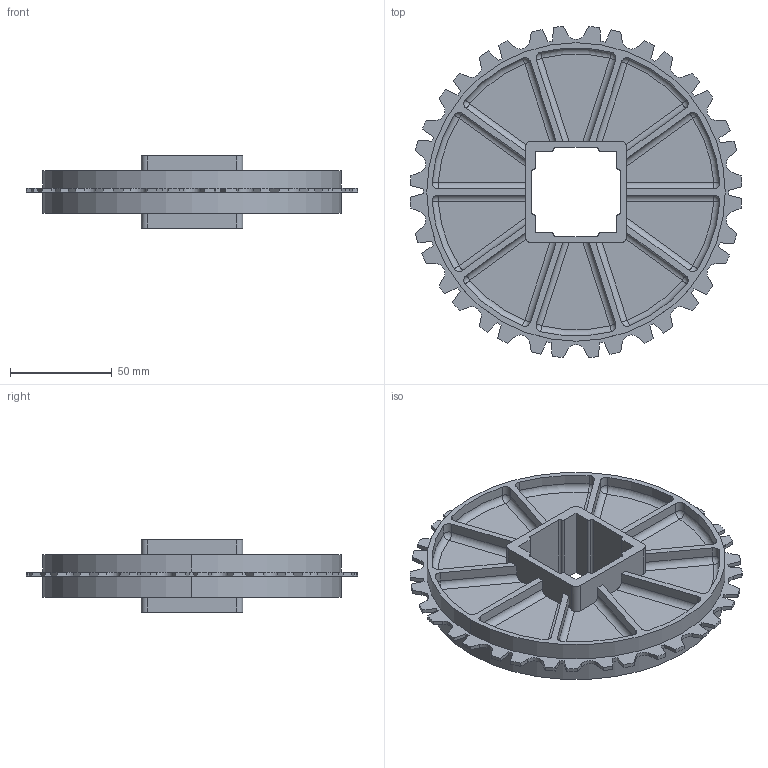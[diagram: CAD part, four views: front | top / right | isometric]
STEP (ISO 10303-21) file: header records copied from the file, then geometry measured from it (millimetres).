
FILE_DESCRIPTION(('CATIA V5 STEP Exchange'),'2;1');
FILE_NAME('C:\Users\ALI OZGUN\Desktop\alhan\380ABD219.stp','2017-08-17T06:02:10+00:00',('none'),('none'),'CATIA Version 5 Release 21 GA (IN-10)','CATIA V5 STEP AP203','none');
FILE_SCHEMA(('CONFIG_CONTROL_DESIGN'));
Length unit declared in the file: millimetre
Products named in the file (1): 380ABD219
Bounding box: 163.42 x 163.02 x 35.75 mm (x, y, z)
Volume: 147193.8 mm3; surface area: 74000.5 mm2
Topology: 1 solids, 1 shells, 418 faces, 1172 edges, 720 vertices
Faces by surface type: cylinder 200, plane 158, sphere 40, torus 20
Entity records: 12556 total; most frequent: CARTESIAN_POINT 2609, ORIENTED_EDGE 2264, DIRECTION 1692, EDGE_CURVE 1132, AXIS2_PLACEMENT_3D 729, VERTEX_POINT 720, VECTOR 664, LINE 664
